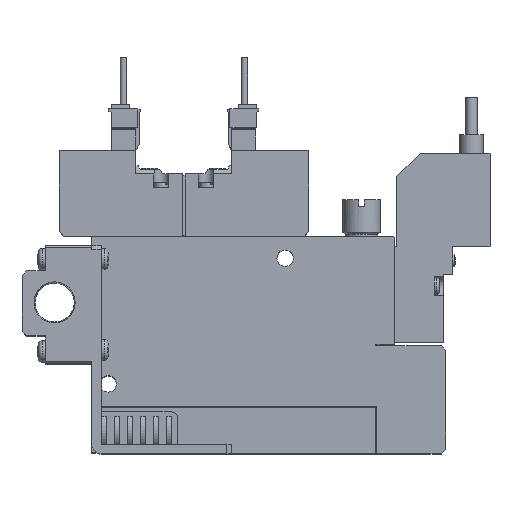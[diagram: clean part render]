
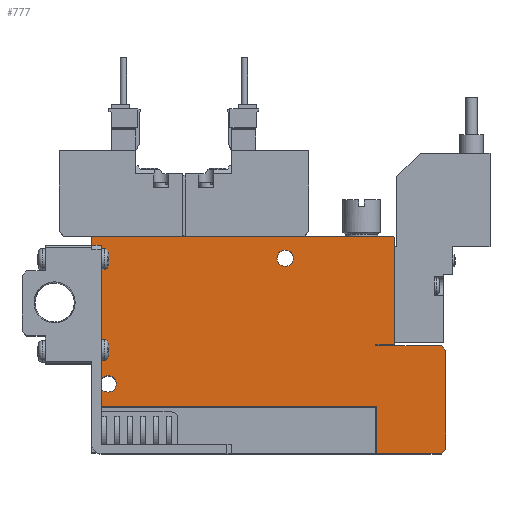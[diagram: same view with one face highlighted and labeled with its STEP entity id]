
A CAD part, top view. The second image highlights one B-rep face of the part: STEP entity #777.
In plain terms, the highlighted planar face has unit normal (0, 0, 1).
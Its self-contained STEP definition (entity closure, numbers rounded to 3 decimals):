
#777=ADVANCED_FACE('',(#1837,#1838,#1839),#1840,.F.);
#1837=FACE_OUTER_BOUND('',#3335,.T.);
#1838=FACE_BOUND('',#3336,.T.);
#1839=FACE_BOUND('',#3337,.T.);
#1840=PLANE('',#3338);
#3335=EDGE_LOOP('',(#6866,#6867,#6868,#6869,#6870,#6871,#6872,#6873,#6874,#6875,#6876,#6877,#6878,#6879));
#3336=EDGE_LOOP('',(#6880));
#3337=EDGE_LOOP('',(#6881));
#3338=AXIS2_PLACEMENT_3D('',#6882,#6883,#6884);
#6866=ORIENTED_EDGE('',*,*,#10340,.T.);
#6867=ORIENTED_EDGE('',*,*,#10341,.F.);
#6868=ORIENTED_EDGE('',*,*,#10317,.F.);
#6869=ORIENTED_EDGE('',*,*,#10342,.T.);
#6870=ORIENTED_EDGE('',*,*,#10343,.T.);
#6871=ORIENTED_EDGE('',*,*,#10200,.T.);
#6872=ORIENTED_EDGE('',*,*,#10326,.T.);
#6873=ORIENTED_EDGE('',*,*,#10344,.T.);
#6874=ORIENTED_EDGE('',*,*,#10345,.T.);
#6875=ORIENTED_EDGE('',*,*,#10346,.T.);
#6876=ORIENTED_EDGE('',*,*,#10347,.T.);
#6877=ORIENTED_EDGE('',*,*,#10309,.T.);
#6878=ORIENTED_EDGE('',*,*,#10338,.T.);
#6879=ORIENTED_EDGE('',*,*,#10348,.T.);
#6880=ORIENTED_EDGE('',*,*,#10349,.F.);
#6881=ORIENTED_EDGE('',*,*,#10350,.F.);
#6882=CARTESIAN_POINT('',(0.0,0.0,5.0));
#6883=DIRECTION('',(0.0,0.0,-1.0));
#6884=DIRECTION('',(0.0,-1.0,0.0));
#10200=EDGE_CURVE('',#12410,#12408,#12411,.T.);
#10309=EDGE_CURVE('',#12616,#12614,#12617,.T.);
#10317=EDGE_CURVE('',#12630,#12632,#12633,.T.);
#10326=EDGE_CURVE('',#12408,#12645,#12647,.T.);
#10338=EDGE_CURVE('',#12614,#12667,#12669,.T.);
#10340=EDGE_CURVE('',#12672,#12673,#12674,.T.);
#10341=EDGE_CURVE('',#12632,#12673,#12675,.T.);
#10342=EDGE_CURVE('',#12630,#12676,#12677,.T.);
#10343=EDGE_CURVE('',#12676,#12410,#12678,.T.);
#10344=EDGE_CURVE('',#12645,#12679,#12680,.T.);
#10345=EDGE_CURVE('',#12679,#12681,#12682,.T.);
#10346=EDGE_CURVE('',#12681,#12683,#12684,.T.);
#10347=EDGE_CURVE('',#12683,#12616,#12685,.T.);
#10348=EDGE_CURVE('',#12667,#12672,#12686,.T.);
#10349=EDGE_CURVE('',#12687,#12687,#12688,.T.);
#10350=EDGE_CURVE('',#12689,#12689,#12690,.T.);
#12408=VERTEX_POINT('',#16103);
#12410=VERTEX_POINT('',#16106);
#12411=LINE('',#16107,#16108);
#12614=VERTEX_POINT('',#16499);
#12616=VERTEX_POINT('',#16502);
#12617=LINE('',#16503,#16504);
#12630=VERTEX_POINT('',#16523);
#12632=VERTEX_POINT('',#16526);
#12633=LINE('',#16527,#16528);
#12645=VERTEX_POINT('',#16547);
#12647=LINE('',#16550,#16551);
#12667=VERTEX_POINT('',#16595);
#12669=LINE('',#16598,#16599);
#12672=VERTEX_POINT('',#16602);
#12673=VERTEX_POINT('',#16603);
#12674=LINE('',#16604,#16605);
#12675=LINE('',#16606,#16607);
#12676=VERTEX_POINT('',#16608);
#12677=LINE('',#16609,#16610);
#12678=LINE('',#16611,#16612);
#12679=VERTEX_POINT('',#16613);
#12680=LINE('',#16614,#16615);
#12681=VERTEX_POINT('',#16616);
#12682=LINE('',#16617,#16618);
#12683=VERTEX_POINT('',#16619);
#12684=LINE('',#16620,#16621);
#12685=LINE('',#16622,#16623);
#12686=LINE('',#16624,#16625);
#12687=VERTEX_POINT('',#16626);
#12688=CIRCLE('',#16627,1.75);
#12689=VERTEX_POINT('',#16628);
#12690=CIRCLE('',#16629,1.75);
#16103=CARTESIAN_POINT('',(76.0,22.25,5.0));
#16106=CARTESIAN_POINT('',(76.0,1.0,5.0));
#16107=CARTESIAN_POINT('',(76.0,1.0,5.0));
#16108=VECTOR('',#20022,1.0);
#16499=CARTESIAN_POINT('',(64.8,46.6,5.0));
#16502=CARTESIAN_POINT('',(65.0,46.4,5.0));
#16503=CARTESIAN_POINT('',(65.0,46.4,5.0));
#16504=VECTOR('',#20176,1.0);
#16523=CARTESIAN_POINT('',(61.1,0.0,5.0));
#16526=CARTESIAN_POINT('',(61.1,10.1,5.0));
#16527=CARTESIAN_POINT('',(61.1,0.0,5.0));
#16528=VECTOR('',#20184,1.0);
#16547=CARTESIAN_POINT('',(75.0,23.25,5.0));
#16550=CARTESIAN_POINT('',(76.0,22.25,5.0));
#16551=VECTOR('',#20193,1.0);
#16595=CARTESIAN_POINT('',(0.2,46.6,5.0));
#16598=CARTESIAN_POINT('',(64.8,46.6,5.0));
#16599=VECTOR('',#20209,1.0);
#16602=CARTESIAN_POINT('',(0.0,46.4,5.0));
#16603=CARTESIAN_POINT('',(0.0,10.1,5.0));
#16604=CARTESIAN_POINT('',(0.0,46.4,5.0));
#16605=VECTOR('',#20213,1.0);
#16606=CARTESIAN_POINT('',(61.1,10.1,5.0));
#16607=VECTOR('',#20214,1.0);
#16608=CARTESIAN_POINT('',(75.0,0.0,5.0));
#16609=CARTESIAN_POINT('',(0.0,0.0,5.0));
#16610=VECTOR('',#20215,1.0);
#16611=CARTESIAN_POINT('',(75.0,0.0,5.0));
#16612=VECTOR('',#20216,1.0);
#16613=CARTESIAN_POINT('',(61.0,23.25,5.0));
#16614=CARTESIAN_POINT('',(75.0,23.25,5.0));
#16615=VECTOR('',#20217,1.0);
#16616=CARTESIAN_POINT('',(61.0,23.5,5.0));
#16617=CARTESIAN_POINT('',(61.0,23.25,5.0));
#16618=VECTOR('',#20218,1.0);
#16619=CARTESIAN_POINT('',(65.0,23.5,5.0));
#16620=CARTESIAN_POINT('',(61.0,23.5,5.0));
#16621=VECTOR('',#20219,1.0);
#16622=CARTESIAN_POINT('',(65.0,23.5,5.0));
#16623=VECTOR('',#20220,1.0);
#16624=CARTESIAN_POINT('',(0.2,46.6,5.0));
#16625=VECTOR('',#20221,1.0);
#16626=CARTESIAN_POINT('',(5.25,15.0,5.0));
#16627=AXIS2_PLACEMENT_3D('',#20222,#20223,#20224);
#16628=CARTESIAN_POINT('',(43.25,42.0,5.0));
#16629=AXIS2_PLACEMENT_3D('',#20225,#20226,#20227);
#20022=DIRECTION('',(0.0,1.0,0.0));
#20176=DIRECTION('',(-0.707,0.707,0.0));
#20184=DIRECTION('',(0.0,1.0,0.0));
#20193=DIRECTION('',(-0.707,0.707,0.0));
#20209=DIRECTION('',(-1.0,0.0,0.0));
#20213=DIRECTION('',(0.0,-1.0,0.0));
#20214=DIRECTION('',(-1.0,0.0,0.0));
#20215=DIRECTION('',(1.0,0.0,0.0));
#20216=DIRECTION('',(0.707,0.707,0.0));
#20217=DIRECTION('',(-1.0,0.0,0.0));
#20218=DIRECTION('',(0.0,1.0,0.0));
#20219=DIRECTION('',(1.0,0.,0.0));
#20220=DIRECTION('',(0.0,1.0,0.0));
#20221=DIRECTION('',(-0.707,-0.707,0.0));
#20222=CARTESIAN_POINT('',(3.5,15.0,5.0));
#20223=DIRECTION('',(0.0,0.0,1.0));
#20224=DIRECTION('',(1.0,0.0,0.0));
#20225=CARTESIAN_POINT('',(41.5,42.0,5.0));
#20226=DIRECTION('',(0.0,0.0,1.0));
#20227=DIRECTION('',(1.0,0.0,0.0));
